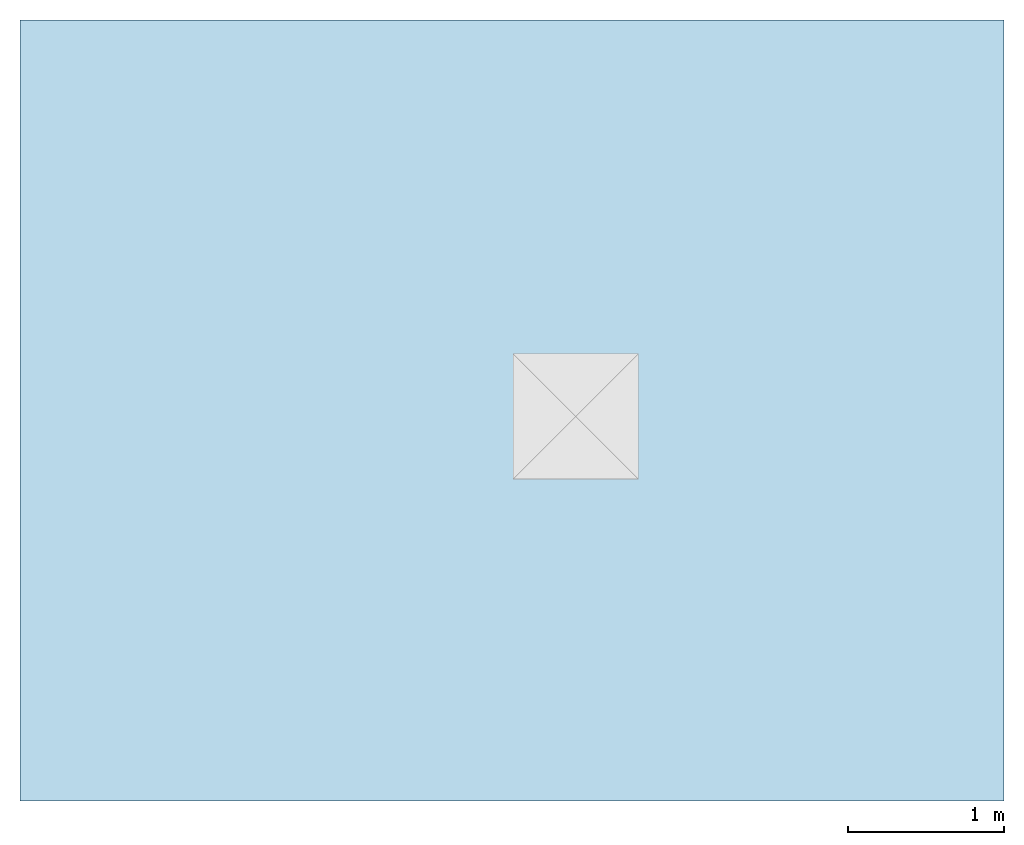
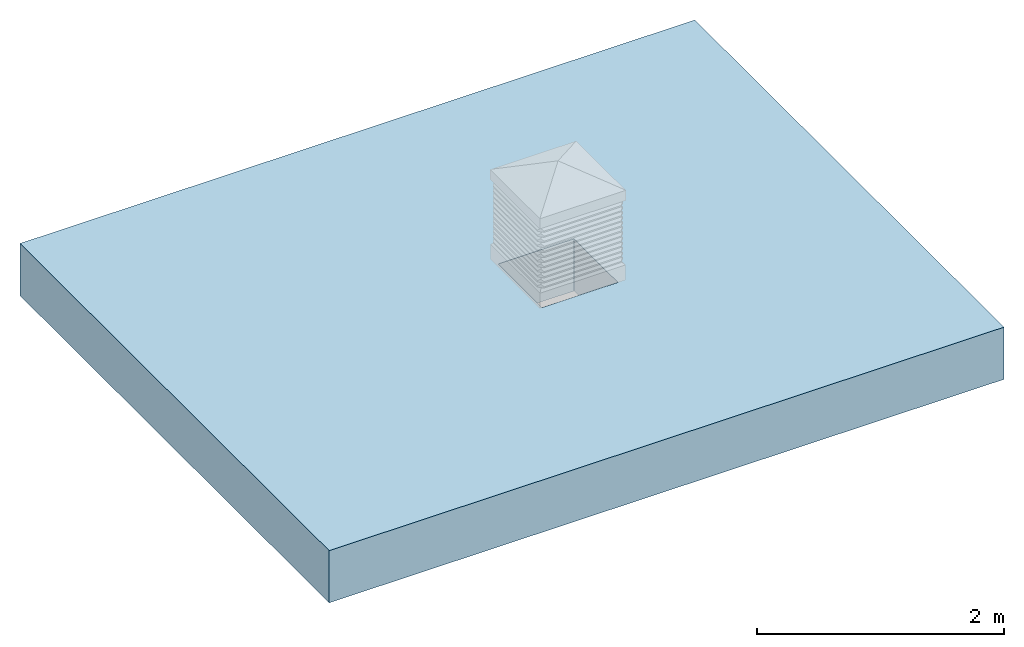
# One storey, incomplete: 1 slab, 1 opening, 1 element without a shape of its own.
"""IFC2X3 building model written with IfcOpenShell, lengths in millimetres."""

from ifc_helpers import new_model, entity, si_unit, converted_unit, derived_unit, direction, frame, origin, origin_2d_with_axis, place, context, subcontext, project, spatial, rectangle, extrude, material, layer, layer_set, type_object, element, aggregate, save


model = new_model("IFC2X3")

# Units and contexts
model_context = context("Model", 3, precision=0.01, world=origin(), true_north=direction((6.123031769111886e-17, 1.0)))
body_context = subcontext(model_context, "Body", "Model", "MODEL_VIEW")
ifc_project = project(units=[si_unit("LENGTHUNIT", "METRE", prefix="MILLI"), si_unit("AREAUNIT", "SQUARE_METRE"), si_unit("VOLUMEUNIT", "CUBIC_METRE"), converted_unit("PLANEANGLEUNIT", "DEGREE", entity("IfcPlaneAngleMeasure", 0.017453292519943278), si_unit("PLANEANGLEUNIT", "RADIAN"), dimensions=[0, 0, 0, 0, 0, 0, 0]), si_unit("MASSUNIT", "GRAM", prefix="KILO"), derived_unit("MASSDENSITYUNIT", [(si_unit("MASSUNIT", "GRAM", prefix="KILO"), 1), (si_unit("LENGTHUNIT", "METRE"), -3)]), derived_unit("IONCONCENTRATIONUNIT", [(si_unit("MASSUNIT", "GRAM", prefix="KILO"), 1), (si_unit("LENGTHUNIT", "METRE"), -3)]), derived_unit("MOMENTOFINERTIAUNIT", [(si_unit("LENGTHUNIT", "METRE"), 4)]), si_unit("TIMEUNIT", "SECOND"), si_unit("FREQUENCYUNIT", "HERTZ"), si_unit("THERMODYNAMICTEMPERATUREUNIT", "DEGREE_CELSIUS"), derived_unit("THERMALTRANSMITTANCEUNIT", [(si_unit("MASSUNIT", "GRAM", prefix="KILO"), 1), (si_unit("THERMODYNAMICTEMPERATUREUNIT", "KELVIN"), -1), (si_unit("TIMEUNIT", "SECOND"), -3)]), derived_unit("THERMALCONDUCTANCEUNIT", [(si_unit("MASSUNIT", "GRAM", prefix="KILO"), 1), (si_unit("THERMODYNAMICTEMPERATUREUNIT", "KELVIN"), -1), (si_unit("TIMEUNIT", "SECOND"), -3), (si_unit("LENGTHUNIT", "METRE"), 1)]), derived_unit("VOLUMETRICFLOWRATEUNIT", [(si_unit("LENGTHUNIT", "METRE", prefix="DECI"), 3), (si_unit("TIMEUNIT", "SECOND"), -1)]), derived_unit("MASSFLOWRATEUNIT", [(si_unit("MASSUNIT", "GRAM", prefix="KILO"), 1), (si_unit("TIMEUNIT", "SECOND"), -1)]), derived_unit("ROTATIONALFREQUENCYUNIT", [(si_unit("TIMEUNIT", "SECOND"), -1)]), si_unit("ELECTRICCURRENTUNIT", "AMPERE"), si_unit("ELECTRICVOLTAGEUNIT", "VOLT"), si_unit("POWERUNIT", "WATT"), si_unit("FORCEUNIT", "NEWTON", prefix="KILO"), si_unit("ILLUMINANCEUNIT", "LUX"), si_unit("LUMINOUSFLUXUNIT", "LUMEN"), si_unit("LUMINOUSINTENSITYUNIT", "CANDELA"), si_unit("ENERGYUNIT", "JOULE"), derived_unit("USERDEFINED", [(si_unit("MASSUNIT", "GRAM", prefix="KILO"), -1), (si_unit("LENGTHUNIT", "METRE"), -2), (si_unit("TIMEUNIT", "SECOND"), 3), (si_unit("LUMINOUSFLUXUNIT", "LUMEN"), 1)]), derived_unit("USERDEFINED", [(si_unit("MASSUNIT", "GRAM", prefix="KILO"), 1), (si_unit("TIMEUNIT", "SECOND"), -3), (si_unit("LENGTHUNIT", "METRE"), 3), (si_unit("ELECTRICCURRENTUNIT", "AMPERE"), -2)]), derived_unit("SOUNDPOWERUNIT", [(si_unit("MASSUNIT", "GRAM", prefix="KILO"), 1), (si_unit("TIMEUNIT", "SECOND"), -3), (si_unit("LENGTHUNIT", "METRE"), 2)]), derived_unit("SOUNDPRESSUREUNIT", [(si_unit("MASSUNIT", "GRAM", prefix="KILO"), 1), (si_unit("LENGTHUNIT", "METRE"), -1), (si_unit("TIMEUNIT", "SECOND"), -2)]), derived_unit("LINEARVELOCITYUNIT", [(si_unit("LENGTHUNIT", "METRE"), 1), (si_unit("TIMEUNIT", "SECOND"), -1)]), si_unit("PRESSUREUNIT", "PASCAL"), derived_unit("USERDEFINED", [(si_unit("MASSUNIT", "GRAM", prefix="KILO"), 1), (si_unit("LENGTHUNIT", "METRE"), -2), (si_unit("TIMEUNIT", "SECOND"), -2)]), derived_unit("LINEARFORCEUNIT", [(si_unit("MASSUNIT", "GRAM", prefix="KILO"), 1), (si_unit("TIMEUNIT", "SECOND"), -2)]), derived_unit("PLANARFORCEUNIT", [(si_unit("MASSUNIT", "GRAM", prefix="KILO"), 1), (si_unit("LENGTHUNIT", "METRE"), -1), (si_unit("TIMEUNIT", "SECOND"), -2)]), derived_unit("SPECIFICHEATCAPACITYUNIT", [(si_unit("THERMODYNAMICTEMPERATUREUNIT", "KELVIN"), -1), (si_unit("LENGTHUNIT", "METRE"), 2), (si_unit("TIMEUNIT", "SECOND"), -2)]), derived_unit("HEATFLUXDENSITYUNIT", [(si_unit("MASSUNIT", "GRAM", prefix="KILO"), 1), (si_unit("TIMEUNIT", "SECOND"), -3)]), derived_unit("HEATINGVALUEUNIT", [(si_unit("LENGTHUNIT", "METRE"), 2), (si_unit("TIMEUNIT", "SECOND"), -2)]), derived_unit("VAPORPERMEABILITYUNIT", [(si_unit("LENGTHUNIT", "METRE"), -1), (si_unit("TIMEUNIT", "SECOND"), 1)]), derived_unit("DYNAMICVISCOSITYUNIT", [(si_unit("MASSUNIT", "GRAM", prefix="KILO"), 1), (si_unit("TIMEUNIT", "SECOND"), -1), (si_unit("LENGTHUNIT", "METRE"), -1)]), derived_unit("THERMALEXPANSIONCOEFFICIENTUNIT", [(si_unit("THERMODYNAMICTEMPERATUREUNIT", "KELVIN"), -1)]), derived_unit("MODULUSOFELASTICITYUNIT", [(si_unit("MASSUNIT", "GRAM", prefix="KILO"), 1), (si_unit("LENGTHUNIT", "METRE"), -1), (si_unit("TIMEUNIT", "SECOND"), -2)]), derived_unit("ISOTHERMALMOISTURECAPACITYUNIT", [(si_unit("MASSUNIT", "GRAM", prefix="KILO"), -1), (si_unit("LENGTHUNIT", "METRE"), 3)]), derived_unit("MOISTUREDIFFUSIVITYUNIT", [(si_unit("TIMEUNIT", "SECOND"), -1), (si_unit("LENGTHUNIT", "METRE"), 2)]), derived_unit("MASSPERLENGTHUNIT", [(si_unit("MASSUNIT", "GRAM", prefix="KILO"), 1), (si_unit("LENGTHUNIT", "METRE"), -1)]), derived_unit("THERMALRESISTANCEUNIT", [(si_unit("MASSUNIT", "GRAM", prefix="KILO"), -1), (si_unit("TIMEUNIT", "SECOND"), 3), (si_unit("THERMODYNAMICTEMPERATUREUNIT", "KELVIN"), 1)]), derived_unit("ACCELERATIONUNIT", [(si_unit("LENGTHUNIT", "METRE"), 1), (si_unit("TIMEUNIT", "SECOND"), -2)]), derived_unit("ANGULARVELOCITYUNIT", [(si_unit("TIMEUNIT", "SECOND"), -1), (si_unit("PLANEANGLEUNIT", "RADIAN"), 1)]), derived_unit("LINEARSTIFFNESSUNIT", [(si_unit("MASSUNIT", "GRAM", prefix="KILO"), 1), (si_unit("TIMEUNIT", "SECOND"), -2)]), derived_unit("WARPINGCONSTANTUNIT", [(si_unit("LENGTHUNIT", "METRE"), 6)]), derived_unit("LINEARMOMENTUNIT", [(si_unit("MASSUNIT", "GRAM", prefix="KILO"), 1), (si_unit("LENGTHUNIT", "METRE"), 1), (si_unit("TIMEUNIT", "SECOND"), -2)]), derived_unit("TORQUEUNIT", [(si_unit("MASSUNIT", "GRAM", prefix="KILO"), 1), (si_unit("LENGTHUNIT", "METRE"), 2), (si_unit("TIMEUNIT", "SECOND"), -2)])], contexts=[model_context])

# Site, building, storey
site_placement = place(None, origin())
site = spatial("IfcSite", under=ifc_project, at=site_placement, Name="Default", CompositionType="ELEMENT")
building_placement = place(site_placement, origin())
building = spatial("IfcBuilding", under=site, at=building_placement, CompositionType="ELEMENT")
storey_placement = place(building_placement, origin())
storey = spatial("IfcBuildingStorey", under=building, at=storey_placement, Name="Level 0", CompositionType="ELEMENT", Elevation=0.0)

# Roof, slab, opening
ifc_material_1 = material(Name="Roofing, Standing Seam")
ifc_layer_1 = layer(ifc_material_1, 50.0)
ifc_material_2 = material(Name="Rigid insulation")
ifc_layer_2 = layer(ifc_material_2, 220.0)
ifc_material_3 = material(Name="Metal Panel")
ifc_layer_3 = layer(ifc_material_3, 20.0)
ifc_material_4 = material(Name="Steel Purlins")
ifc_layer_4 = layer(ifc_material_4, 225.00000000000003)
ifc_layer_set = layer_set([ifc_layer_1, ifc_layer_2, ifc_layer_3, ifc_layer_4], Name="Basic Roof:Roof_Pitched-50SS-220Ins-20MPan-225Purl")
roof_placement = place(storey_placement, origin())
roof = element("IfcRoof", 1, at=roof_placement, inside=storey, material=ifc_layer_set, Name="Basic Roof:Roof_Pitched-50SS-220Ins-20MPan-225Purl", ObjectType="Basic Roof:Roof_Pitched-50SS-220Ins-20MPan-225Purl", ShapeType="NOTDEFINED")
slab_type = type_object("IfcSlabType", Name="Basic Roof:Roof_Pitched-50SS-220Ins-20MPan-225Purl", PredefinedType="ROOF")
slab_placement = place(storey_placement, origin())
slab = element("IfcSlab", 2, at=slab_placement, type_object=slab_type, Name="Basic Roof:Roof_Pitched-50SS-220Ins-20MPan-225Purl:1", ObjectType="Basic Roof:Roof_Pitched-50SS-220Ins-20MPan-225Purl", PredefinedType="ROOF", context=body_context, shape_type="SweptSolid", body=[
    extrude(rectangle(XDim=5000.0, YDim=6300.0, at=origin_2d_with_axis()), frame((-400.82841253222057, 37.84535182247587, 0.0), z_axis=(0.0, 0.0, 1.0), x_axis=(0.0, -1.0, 0.0)), (0.0, 0.0, 1.0), 515.0),
])
opening_placement = place(storey_placement, origin())
element("IfcOpeningElement", 3, at=opening_placement, cuts=slab, Name="Basic Roof:Roof_Pitched-50SS-220Ins-20MPan-225Purl:1", ObjectType="Opening", context=body_context, shape_type="SweptSolid", body=[
    extrude(rectangle(XDim=708.9999999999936, YDim=708.9999999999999, at=origin_2d_with_axis()), frame((7.024999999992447, 0.0, 0.0)), (0.0, 0.0, 1.0), 515.0),
])
aggregate(roof, [slab])

save(model, "model.ifc")
